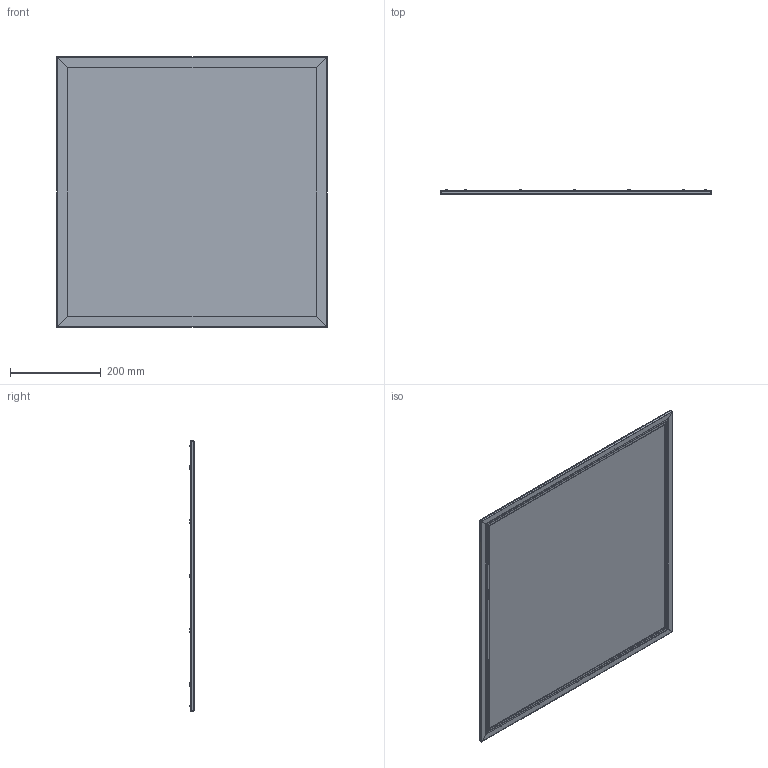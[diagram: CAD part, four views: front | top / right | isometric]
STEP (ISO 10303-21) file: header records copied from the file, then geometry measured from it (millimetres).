
FILE_DESCRIPTION(/* description */ (''),/* implementation_level */ '2;1');
FILE_NAME(/* name */ '3D-595X595面板灯.stp',/* time_stamp */ '2021-04-14T13:58:12+08:00',/* author */ (''),/* organization */ (''),/* preprocessor_version */ 'ST-DEVELOPER v16',/* originating_system */ 'SIEMENS PLM Software NX 10.0',/* authorisation */ '');
FILE_SCHEMA (('AUTOMOTIVE_DESIGN { 1 0 10303 214 3 1 1 1 }'));
Length unit declared in the file: millimetre
Products named in the file (1): LED PANEL SQ 40W SYLVANIA
Bounding box: 595 x 9.05 x 595 mm (x, y, z)
Volume: 1689329.1 mm3; surface area: 3449998.3 mm2
Topology: 29 solids, 29 shells, 827 faces, 2266 edges, 1497 vertices
Faces by surface type: plane 627, cylinder 120, torus 40, sphere 20, cone 20
Full cylindrical faces by diameter (mm): 2.9 x20, 5.6 x20
Entity records: 25222 total; most frequent: DIRECTION 4402, CARTESIAN_POINT 4331, ORIENTED_EDGE 4132, EDGE_CURVE 2066, AXIS2_PLACEMENT_3D 1508, VERTEX_POINT 1437, LINE 1386, VECTOR 1386
